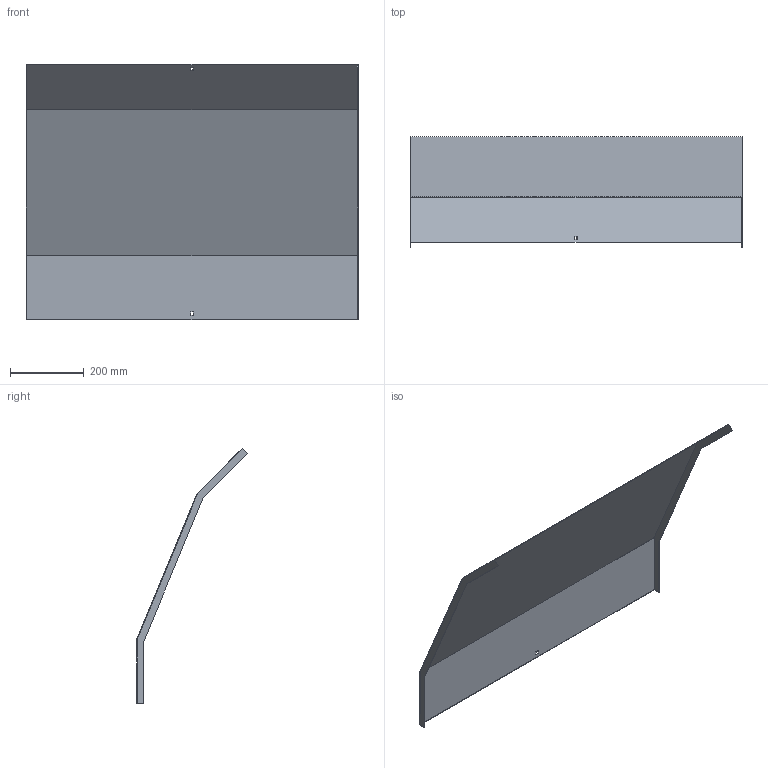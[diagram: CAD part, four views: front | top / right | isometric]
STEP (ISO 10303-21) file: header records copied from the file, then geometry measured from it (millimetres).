
FILE_DESCRIPTION (( 'STEP AP214' ), '1' );
FILE_NAME ('34N5D900.step', '2025-02-21T10:33:31', ( '' ), ( '' ), 'SwSTEP 2.0', 'SolidWorks 2023', '' );
FILE_SCHEMA (( 'AUTOMOTIVE_DESIGN' ));
Length unit declared in the file: millimetre
Products named in the file (1): 34N5D900
Bounding box: 903 x 301.7 x 694.23 mm (x, y, z)
Volume: 1095398.8 mm3; surface area: 1465732.6 mm2
Topology: 1 solids, 1 shells, 26 faces, 72 edges, 48 vertices
Faces by surface type: plane 26
Entity records: 847 total; most frequent: CARTESIAN_POINT 147, ORIENTED_EDGE 144, DIRECTION 126, VECTOR 72, EDGE_CURVE 72, LINE 72, VERTEX_POINT 48, EDGE_LOOP 30
